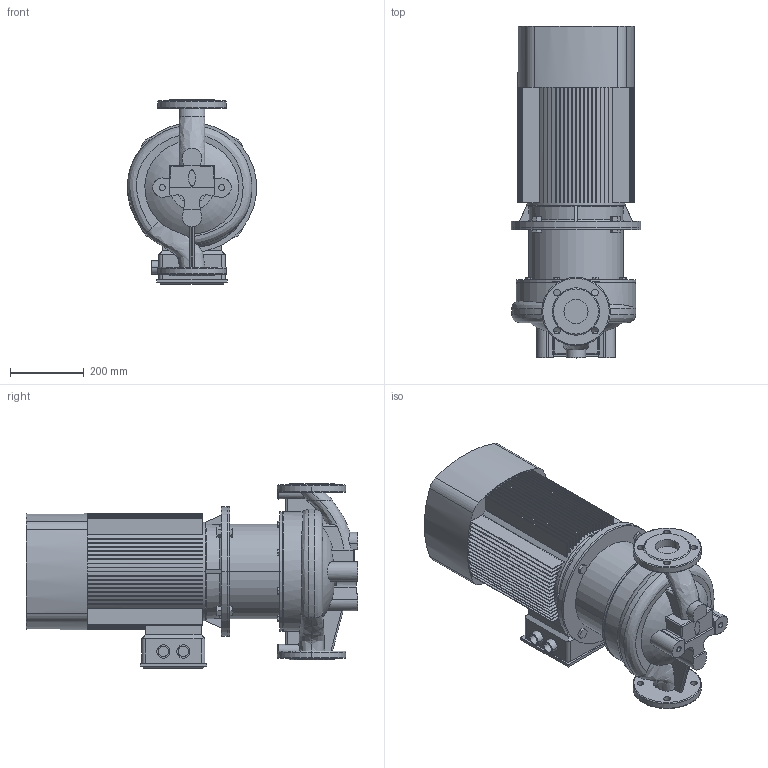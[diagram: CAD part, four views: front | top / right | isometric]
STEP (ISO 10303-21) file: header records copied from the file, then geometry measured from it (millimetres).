
FILE_DESCRIPTION (( 'STEP AP203' ), '1' );
FILE_NAME ('TD65-61G_2.STEP', '2022-04-28T15:04:36', ( '' ), ( '' ), 'SwSTEP 2.0', 'SolidWorks 2019', '' );
FILE_SCHEMA (( 'CONFIG_CONTROL_DESIGN' ));
Length unit declared in the file: millimetre
Products named in the file (4): TD65-61G_2; Fon_65_TD65-61G_2; Pr_ch 65 - 61_68_85_TD65-61G_2; ED_B5_YE2-160L-2 (18.5)
Assembly tree (3 placements, depth 2):
  TD65-61G_2
    Pr_ch 65 - 61_68_85_TD65-61G_2
    Fon_65_TD65-61G_2
    ED_B5_YE2-160L-2 (18.5)
Bounding box: 350 x 897 x 498 mm (x, y, z)
Volume: 54909844.3 mm3; surface area: 3008597.7 mm2
Topology: 5 solids, 6 shells, 718 faces, 1974 edges, 1299 vertices
Faces by surface type: plane 503, cylinder 144, torus 28, bspline 24, cone 17, sphere 2
Entity records: 30507 total; most frequent: CARTESIAN_POINT 11545, ORIENTED_EDGE 3944, DIRECTION 3875, EDGE_CURVE 1972, AXIS2_PLACEMENT_3D 1352, VERTEX_POINT 1299, VECTOR 1171, LINE 1171
